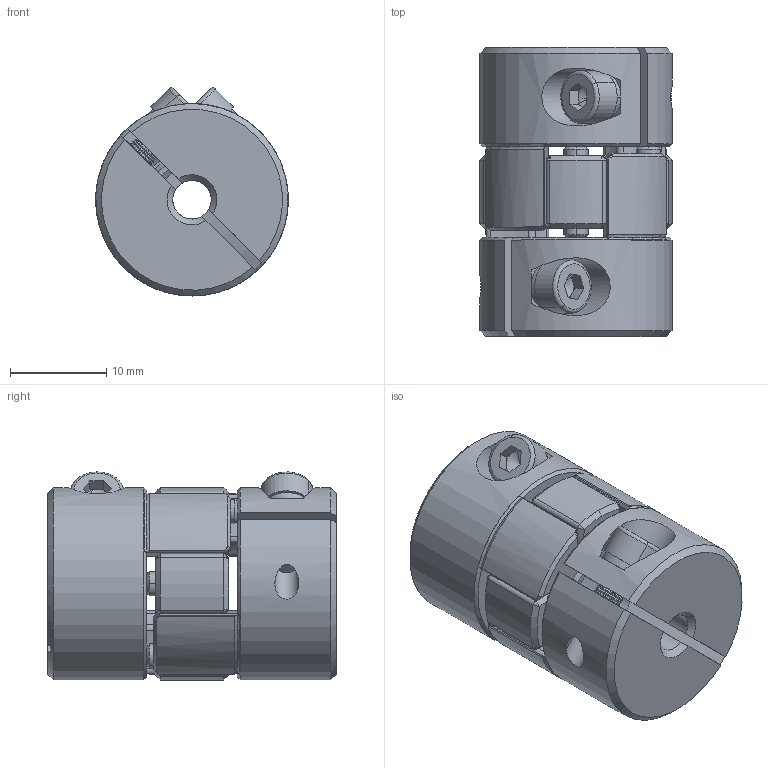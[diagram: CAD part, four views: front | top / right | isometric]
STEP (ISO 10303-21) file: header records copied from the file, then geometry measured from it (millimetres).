
FILE_DESCRIPTION (( 'STEP AP203' ), '1' );
FILE_NAME ('LF-B-D20L30-4-4.STEP', '2021-10-27T02:38:15', ( '' ), ( '' ), 'SwSTEP 2.0', 'SolidWorks 2018', '' );
FILE_SCHEMA (( 'CONFIG_CONTROL_DESIGN' ));
Length unit declared in the file: millimetre
Products named in the file (1): LF-B-D20L30-4-4
Bounding box: 20 x 30 x 21.62 mm (x, y, z)
Volume: 8025.9 mm3; surface area: 4898.5 mm2
Topology: 1 solids, 1 shells, 518 faces, 1253 edges, 691 vertices
Faces by surface type: cone 252, cylinder 192, plane 62, torus 12
Entity records: 15026 total; most frequent: CARTESIAN_POINT 2906, DIRECTION 2742, ORIENTED_EDGE 2426, EDGE_CURVE 1213, AXIS2_PLACEMENT_3D 1107, VERTEX_POINT 691, CIRCLE 588, EDGE_LOOP 546
